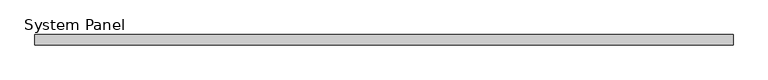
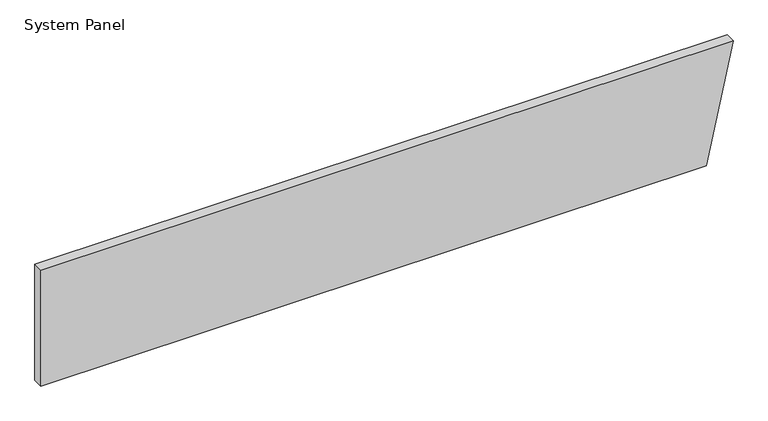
"""IFC4 building model written with IfcOpenShell, lengths in millimetres: plate geometry, System Panel : Equitilt_FlameGuard_100mm_Plain_Surfmist."""

from ifc_helpers import new_model, si_unit, frame, origin, place, context, project, spatial, polyline, outline, extrude, source, transform, mapped, element, save


def system_panel_ca416656(model_context):
    return source(origin(), model_context, "Body", "SweptSolid", [
        extrude(outline(polyline([(0.0, -3386.3074928), (0.0, 3125.4358309), (1200.0, 3386.3074928), (1200.0, -3386.3074928), (0.0, -3386.3074928)])), frame((0.0, -100.0, 0.0), z_axis=(0.0, 1.0, 0.0), x_axis=(0.0, 0.0, 1.0)), (0.0, 0.0, 1.0), 100.0),
    ])


if __name__ == "__main__":
    model = new_model("IFC4")
    model_context = context("Model", 3, world=origin())
    ifc_project = project(units=[si_unit("LENGTHUNIT", "METRE", prefix="MILLI")], contexts=[model_context])
    site = spatial("IfcSite", under=ifc_project)
    building = spatial("IfcBuilding", under=site)
    placement = place(None, origin())
    system_panel_shape = system_panel_ca416656(model_context)
    element("IfcPlate", 1, ObjectType="System Panel : Equitilt_FlameGuard_100mm_Plain_Surfmist", at=placement, inside=building, context=model_context, shape_type="MappedRepresentation", body=[
        mapped(system_panel_shape, transform((0.0, 0.0, 0.0), x_axis=(1.0, 0.0, 0.0), y_axis=(0.0, 1.0, 0.0), z_axis=(0.0, 0.0, 1.0))),
    ])
    save(model, "model.ifc")
